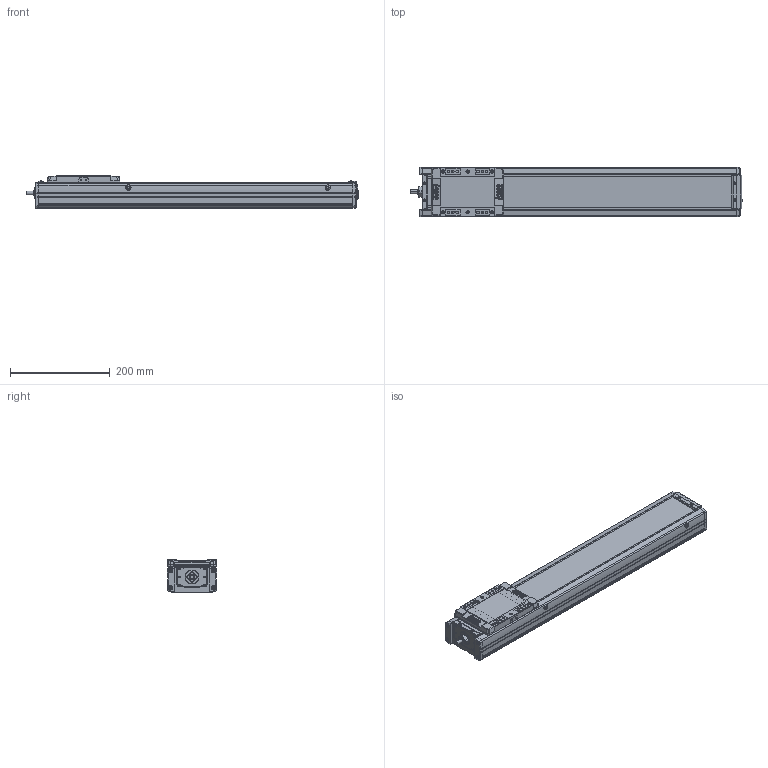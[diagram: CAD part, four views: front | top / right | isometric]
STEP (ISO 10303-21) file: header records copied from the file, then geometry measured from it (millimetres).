
FILE_DESCRIPTION(('STEP AP214'),'1');
FILE_NAME('Z:/Web/3D/SAN100/SAN100 양산용 (STEP)/SAN100ㅁㅁ-450.stp','2013-04-26T00:01:49',(' '),(' '),'Spatial InterOp 3D',' ',' ');
FILE_SCHEMA(('automotive_design'));
Length unit declared in the file: millimetre
Products named in the file (34): SUS COVER; SFX-SAN100; RRCV-SAN100; 스크루 : Round - M4.0 x 10.0; M3.0 x 6.0; 스크루 : Round - M3.0 x 6.0; FRBL-SAN100; SLBL-SAN100; SLCV-SAN100; 스크루 : Countersunk - M3.0 x 6.0; BASE; 스크루 : Round - M5.0 x 6.0; 너트 : Square - M10.0 x 220.7419; RR1500-000L; FRCV-SAN100
Bounding box: 666 x 100 x 66 mm (x, y, z)
Volume: 1802903 mm3; surface area: 458619.7 mm2
Topology: 34 solids, 35 shells, 1958 faces, 5102 edges, 3279 vertices
Faces by surface type: plane 969, cylinder 717, cone 190, sphere 44, torus 26, bspline 12
Entity records: 77191 total; most frequent: CARTESIAN_POINT 11755, DIRECTION 10725, ORIENTED_EDGE 10040, EDGE_CURVE 5020, AXIS2_PLACEMENT_3D 3846, VERTEX_POINT 3279, LINE 3033, VECTOR 3033
